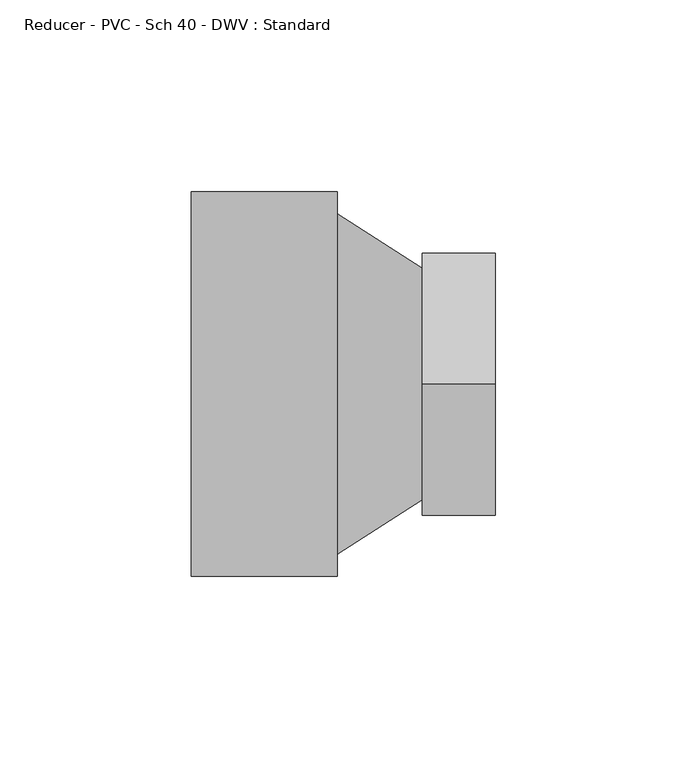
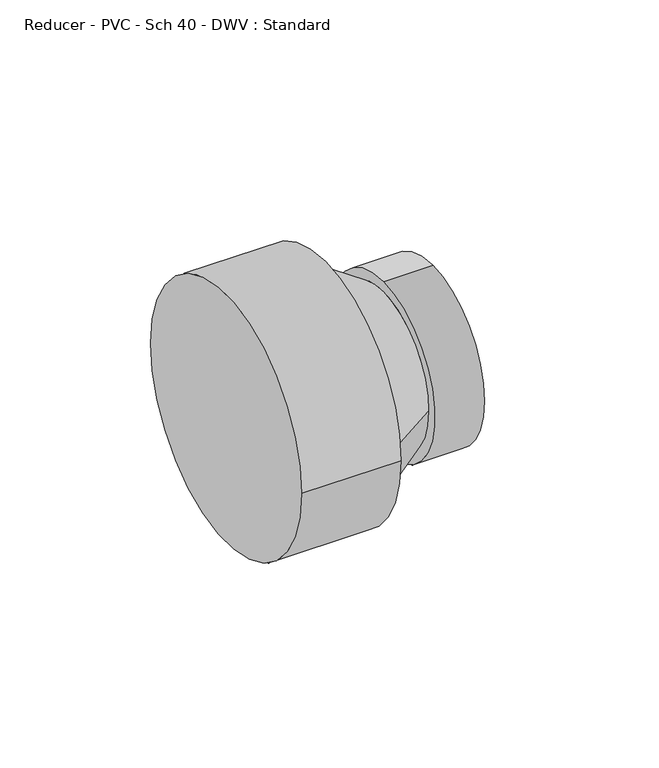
"""IFC4 building model written with IfcOpenShell, lengths in millimetres: pipe fitting geometry, Reducer - PVC - Sch 40 - DWV : Standard."""

from ifc_helpers import new_model, si_unit, frame, origin, place, context, project, spatial, polyline, circle_curve, source, transform, mapped, element, save
from ifc_brep_helpers import plane_surface, cylinder_surface, revolved_surface, advanced_brep


def reducer_pvc_sch_40_dwv_standard_464ee0c2(model_context):
    return source(origin(), model_context, "Body", "AdvancedBrep", [
        advanced_brep(
        [(0.0, -50.2666, 0.0), (0.0, 50.2666, 0.0), (38.1, -50.2666, 0.0), (38.1, 50.2666, 0.0), (38.1, 44.45, 0.0), (38.1, -44.45, 0.0), (60.325, 30.1625, 0.0), (60.325, -30.1625, 0.0), (60.325, 0.0, 34.3154), (60.325, 0.0, -34.3154), (79.375, 0.0, 34.3154), (79.375, 0.0, -34.3154)],
        [
            (0, 1, circle_curve(frame((0.0, 0.0, 0.0), z_axis=(-1.0, 0.0, 0.0), x_axis=(0.0, 1.0, 0.0)), 50.2666)),
            (1, 0, circle_curve(frame((0.0, 0.0, 0.0), z_axis=(-1.0, 0.0, 0.0), x_axis=(0.0, 1.0, 0.0)), 50.2666)),
            (2, 3, circle_curve(frame((38.1, 0.0, 0.0), z_axis=(1.0, 0.0, 0.0), x_axis=(0.0, 1.0, 0.0)), 50.2666)),
            (3, 2, circle_curve(frame((38.1, 0.0, 0.0), z_axis=(1.0, 0.0, 0.0), x_axis=(0.0, 1.0, 0.0)), 50.2666)),
            (4, 5, circle_curve(frame((38.1, 0.0, 0.0), z_axis=(-1.0, 0.0, 0.0), x_axis=(0.0, -1.0, 0.0)), 44.45)),
            (5, 4, circle_curve(frame((38.1, 0.0, 0.0), z_axis=(-1.0, 0.0, 0.0), x_axis=(0.0, 1.0, 0.0)), 44.45)),
            (0, 2),
            (3, 1),
            (4, 6),
            (6, 7, circle_curve(frame((60.325, 0.0, 0.0), z_axis=(-1.0, 0.0, 0.0), x_axis=(0.0, -1.0, 0.0)), 30.1625)),
            (7, 5),
            (7, 6, circle_curve(frame((60.325, 0.0, 0.0), z_axis=(-1.0, 0.0, 0.0), x_axis=(0.0, 1.0, 0.0)), 30.1625)),
            (8, 9, circle_curve(frame((60.325, 0.0, 0.0), z_axis=(-1.0, 0.0, 0.0), x_axis=(0.0, 0.0, -1.0)), 34.3154)),
            (9, 8, circle_curve(frame((60.325, 0.0, 0.0), z_axis=(-1.0, 0.0, 0.0), x_axis=(0.0, 0.0, -1.0)), 34.3154)),
            (10, 11, circle_curve(frame((79.375, 0.0, 0.0), z_axis=(1.0, 0.0, 0.0), x_axis=(0.0, 0.0, -1.0)), 34.3154)),
            (11, 10, circle_curve(frame((79.375, 0.0, 0.0), z_axis=(1.0, 0.0, 0.0), x_axis=(0.0, 0.0, -1.0)), 34.3154)),
            (8, 10),
            (11, 9),
        ],
        [
            plane_surface(frame((0.0, 0.0, 0.0), z_axis=(-1.0, 0.0, 0.0), x_axis=(0.0, 0.0, 1.0))),
            plane_surface(frame((38.1, 0.0, 0.0), z_axis=(1.0, 0.0, 0.0), x_axis=(0.0, 0.0, 1.0))),
            cylinder_surface(frame((0.0, 0.0, 0.0), z_axis=(-1.0, 0.0, 0.0), x_axis=(0.0, 1.0, 0.0)), 50.2666),
            revolved_surface(polyline([(60.32500000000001, 30.16249999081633, 0.0), (38.10000000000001, 44.45, 0.0)]), (107.2444444, 0.0, 0.0), (-1.0, 0.0, 0.0)),
            plane_surface(frame((60.325, 0.0, 0.0), z_axis=(-1.0, 0.0, 0.0), x_axis=(0.0, 1.0, 0.0))),
            plane_surface(frame((79.375, 0.0, 0.0), z_axis=(1.0, 0.0, 0.0), x_axis=(0.0, 1.0, 0.0))),
            cylinder_surface(frame((60.325, 0.0, 0.0), z_axis=(-1.0, 0.0, 0.0), x_axis=(0.0, 0.0, -1.0)), 34.3154),
        ],
        [
            (0, [[1, 2]]),
            (1, [[3, 4], [5, 6]]),
            (2, [[-1, 7, -4, 8]]),
            (2, [[-2, -8, -3, -7]]),
            (3, [[9, 10, 11, -5]]),
            (3, [[-9, -6, -11, 12]]),
            (4, [[13, 14], [-10, -12]]),
            (5, [[15, 16]]),
            (6, [[-13, 17, -16, 18]]),
            (6, [[-14, -18, -15, -17]]),
        ],
    ),
    ])


if __name__ == "__main__":
    model = new_model("IFC4")
    model_context = context("Model", 3, world=origin())
    ifc_project = project(units=[si_unit("LENGTHUNIT", "METRE", prefix="MILLI")], contexts=[model_context])
    site = spatial("IfcSite", under=ifc_project)
    building = spatial("IfcBuilding", under=site)
    placement = place(None, origin())
    reducer_pvc_sch_40_dwv_standard_shape = reducer_pvc_sch_40_dwv_standard_464ee0c2(model_context)
    element("IfcPipeFitting", 1, ObjectType="Reducer - PVC - Sch 40 - DWV : Standard", at=placement, inside=building, context=model_context, shape_type="MappedRepresentation", body=[
        mapped(reducer_pvc_sch_40_dwv_standard_shape, transform((0.0, 0.0, 0.0), x_axis=(1.0, 0.0, 0.0), y_axis=(0.0, 1.0, 0.0), z_axis=(0.0, 0.0, 1.0))),
    ])
    save(model, "model.ifc")
